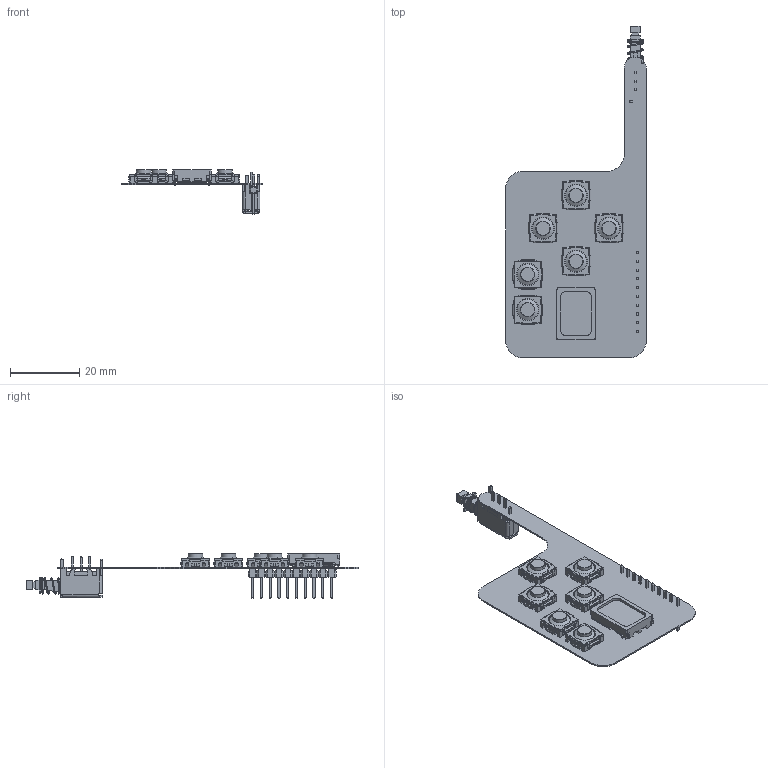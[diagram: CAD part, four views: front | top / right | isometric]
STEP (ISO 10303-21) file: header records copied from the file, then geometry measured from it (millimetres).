
FILE_DESCRIPTION(('Open CASCADE Model'),'2;1');
FILE_NAME('Open CASCADE Shape Model','2023-08-20T21:28:47',('Author'),( 'Open CASCADE'),'Open CASCADE STEP processor 6.8','Open CASCADE 6.8' ,'Unknown');
FILE_SCHEMA(('AUTOMOTIVE_DESIGN { 1 0 10303 214 1 1 1 1 }'));
Length unit declared in the file: millimetre
Products named in the file (28): PCB; Board; Open CASCADE STEP translator 6.8 36.1.1; B6; TLSA040JLFS; 1; B5; B4; B3; B2; B1; SP1; CUI_DEVICES_CMS-151135-078S; LB; LC1258xxxP; CT3; m20-9991046_asm; M20-999-MOULD; M20-999-PIN
Assembly tree (41 placements, depth 4):
  PCB
    Board
      Open CASCADE STEP translator 6.8 36.1.1
    B6
      TLSA040JLFS
        1
        1
        1
        1
        1
        1
        1
        1
        1
        1
    B5
      TLSA040JLFS
        1
        1
        1
        1
        1
        1
        1
        1
        1
        1
    B4
      TLSA040JLFS
        1
        1
        1
        1
        1
        1
        1
        1
        1
        1
    B3
      TLSA040JLFS
        1
        1
        1
        1
        1
        1
        1
        1
        1
        1
    B2
      TLSA040JLFS
        1
        1
        1
        1
        1
        1
        1
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Bounding box: 40.64 x 95.97 x 13 mm (x, y, z)
Volume: 3020.9 mm3; surface area: 9350.4 mm2
Topology: 68 solids, 140 shells, 2927 faces, 8215 edges, 5401 vertices
Faces by surface type: plane 2266, cylinder 425, bspline 90, cone 78, torus 68
Full cylindrical faces by diameter (mm): 0.6 x18, 2.2 x6, 4.2 x6, 6.5 x6
Entity records: 43614 total; most frequent: CARTESIAN_POINT 11211, ORIENTED_EDGE 6280, DIRECTION 5546, EDGE_CURVE 3153, LINE 2592, VECTOR 2592, VERTEX_POINT 2057, AXIS2_PLACEMENT_3D 1477
